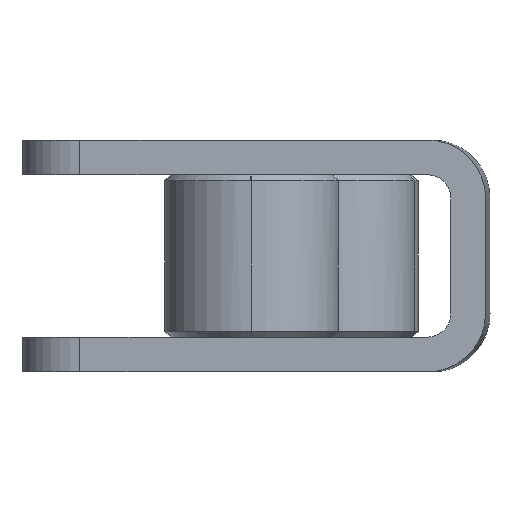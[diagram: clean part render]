
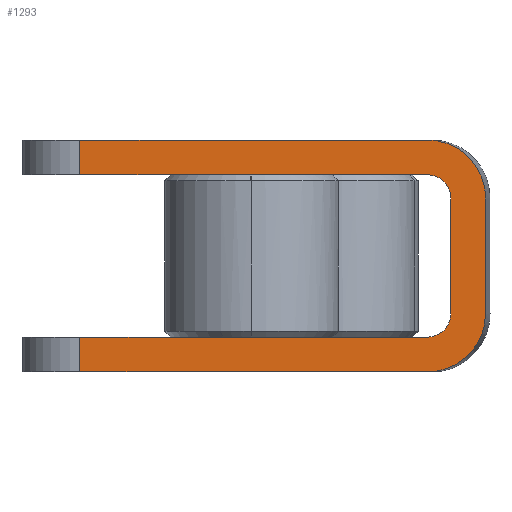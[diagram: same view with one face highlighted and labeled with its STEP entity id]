
A CAD part, left-side view. The second image highlights one B-rep face of the part: STEP entity #1293.
In plain terms, the highlighted planar face has unit normal (-1, 0.001, 0).
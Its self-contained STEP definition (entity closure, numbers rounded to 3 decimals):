
#1195=AXIS2_PLACEMENT_3D('Plane Axis2P3D',#1192,#1193,#1194) ;
#1208=AXIS2_PLACEMENT_3D('Circle Axis2P3D',#1206,#1207,$) ;
#1239=AXIS2_PLACEMENT_3D('Circle Axis2P3D',#1237,#1238,$) ;
#876=CARTESIAN_POINT('Vertex',(-534.201,516.282,340.663)) ;
#879=CARTESIAN_POINT('Line Origine',(-534.201,501.282,340.663)) ;
#883=CARTESIAN_POINT('Vertex',(-534.201,486.282,340.663)) ;
#1046=CARTESIAN_POINT('Vertex',(-534.201,486.282,337.663)) ;
#1049=CARTESIAN_POINT('Line Origine',(-534.201,501.282,337.663)) ;
#1053=CARTESIAN_POINT('Vertex',(-534.201,516.282,337.663)) ;
#1180=CARTESIAN_POINT('Line Origine',(-534.201,516.282,347.663)) ;
#1192=CARTESIAN_POINT('Axis2P3D Location',(-534.201,521.282,337.663)) ;
#1197=CARTESIAN_POINT('Line Origine',(-534.201,501.282,354.663)) ;
#1201=CARTESIAN_POINT('Vertex',(-534.201,516.282,354.663)) ;
#1203=CARTESIAN_POINT('Vertex',(-534.201,486.282,354.663)) ;
#1206=CARTESIAN_POINT('Axis2P3D Location',(-534.201,486.282,352.663)) ;
#1210=CARTESIAN_POINT('Vertex',(-534.201,484.282,352.663)) ;
#1213=CARTESIAN_POINT('Line Origine',(-534.201,484.282,347.663)) ;
#1217=CARTESIAN_POINT('Vertex',(-534.201,484.282,342.663)) ;
#1221=CARTESIAN_POINT('Control Point',(-534.201,484.282,342.663)) ;
#1222=CARTESIAN_POINT('Control Point',(-534.201,484.282,342.456)) ;
#1223=CARTESIAN_POINT('Control Point',(-534.201,484.309,342.248)) ;
#1224=CARTESIAN_POINT('Control Point',(-534.201,484.363,342.045)) ;
#1225=CARTESIAN_POINT('Control Point',(-534.201,484.522,341.657)) ;
#1226=CARTESIAN_POINT('Control Point',(-534.201,484.776,341.323)) ;
#1227=CARTESIAN_POINT('Control Point',(-534.201,484.923,341.173)) ;
#1228=CARTESIAN_POINT('Control Point',(-534.201,485.254,340.916)) ;
#1229=CARTESIAN_POINT('Control Point',(-534.201,485.64,340.752)) ;
#1230=CARTESIAN_POINT('Control Point',(-534.201,485.842,340.696)) ;
#1231=CARTESIAN_POINT('Control Point',(-534.201,486.055,340.665)) ;
#1232=CARTESIAN_POINT('Control Point',(-534.201,486.267,340.664)) ;
#1233=CARTESIAN_POINT('Control Point',(-534.201,486.272,340.663)) ;
#1234=CARTESIAN_POINT('Control Point',(-534.201,486.277,340.663)) ;
#1235=CARTESIAN_POINT('Control Point',(-534.201,486.282,340.663)) ;
#1237=CARTESIAN_POINT('Axis2P3D Location',(-534.201,486.282,342.663)) ;
#1241=CARTESIAN_POINT('Vertex',(-534.201,481.282,342.663)) ;
#1244=CARTESIAN_POINT('Line Origine',(-534.201,481.282,347.663)) ;
#1248=CARTESIAN_POINT('Vertex',(-534.201,481.282,352.663)) ;
#1252=CARTESIAN_POINT('Control Point',(-534.201,486.282,357.663)) ;
#1253=CARTESIAN_POINT('Control Point',(-534.201,485.734,357.663)) ;
#1254=CARTESIAN_POINT('Control Point',(-534.201,485.186,357.588)) ;
#1255=CARTESIAN_POINT('Control Point',(-534.201,484.652,357.438)) ;
#1256=CARTESIAN_POINT('Control Point',(-534.201,483.639,356.996)) ;
#1257=CARTESIAN_POINT('Control Point',(-534.201,482.782,356.298)) ;
#1258=CARTESIAN_POINT('Control Point',(-534.201,482.404,355.891)) ;
#1259=CARTESIAN_POINT('Control Point',(-534.201,481.811,355.046)) ;
#1260=CARTESIAN_POINT('Control Point',(-534.201,481.451,354.081)) ;
#1261=CARTESIAN_POINT('Control Point',(-534.201,481.338,353.614)) ;
#1262=CARTESIAN_POINT('Control Point',(-534.201,481.282,353.139)) ;
#1263=CARTESIAN_POINT('Control Point',(-534.201,481.282,352.663)) ;
#1264=CARTESIAN_POINT('Vertex',(-534.201,486.282,357.663)) ;
#1267=CARTESIAN_POINT('Line Origine',(-534.201,501.282,357.663)) ;
#1271=CARTESIAN_POINT('Vertex',(-534.201,516.282,357.663)) ;
#1274=CARTESIAN_POINT('Line Origine',(-534.201,516.282,356.163)) ;
#880=DIRECTION('Vector Direction',(0.,-1.,0.)) ;
#1050=DIRECTION('Vector Direction',(0.,-1.,0.)) ;
#1181=DIRECTION('Vector Direction',(0.,0.,1.)) ;
#1193=DIRECTION('Axis2P3D Direction',(-1.,0.,0.)) ;
#1194=DIRECTION('Axis2P3D XDirection',(0.,-1.,0.)) ;
#1198=DIRECTION('Vector Direction',(0.,-1.,0.)) ;
#1207=DIRECTION('Axis2P3D Direction',(-1.,0.,0.)) ;
#1214=DIRECTION('Vector Direction',(0.,0.,1.)) ;
#1238=DIRECTION('Axis2P3D Direction',(-1.,0.,0.)) ;
#1245=DIRECTION('Vector Direction',(0.,0.,1.)) ;
#1268=DIRECTION('Vector Direction',(0.,-1.,0.)) ;
#1275=DIRECTION('Vector Direction',(0.,0.,1.)) ;
#881=VECTOR('Line Direction',#880,1.) ;
#1051=VECTOR('Line Direction',#1050,1.) ;
#1182=VECTOR('Line Direction',#1181,1.) ;
#1199=VECTOR('Line Direction',#1198,1.) ;
#1215=VECTOR('Line Direction',#1214,1.) ;
#1246=VECTOR('Line Direction',#1245,1.) ;
#1269=VECTOR('Line Direction',#1268,1.) ;
#1276=VECTOR('Line Direction',#1275,1.) ;
#1280=ORIENTED_EDGE('',*,*,#1205,.T.) ;
#1281=ORIENTED_EDGE('',*,*,#1212,.T.) ;
#1282=ORIENTED_EDGE('',*,*,#1219,.F.) ;
#1283=ORIENTED_EDGE('',*,*,#1236,.T.) ;
#1284=ORIENTED_EDGE('',*,*,#885,.F.) ;
#1285=ORIENTED_EDGE('',*,*,#1184,.F.) ;
#1286=ORIENTED_EDGE('',*,*,#1055,.T.) ;
#1287=ORIENTED_EDGE('',*,*,#1243,.F.) ;
#1288=ORIENTED_EDGE('',*,*,#1250,.T.) ;
#1289=ORIENTED_EDGE('',*,*,#1266,.F.) ;
#1290=ORIENTED_EDGE('',*,*,#1273,.F.) ;
#1291=ORIENTED_EDGE('',*,*,#1278,.F.) ;
#1293=ADVANCED_FACE('\X2\51E04F554F53\X0\.2',(#1292),#1196,.T.) ;
#1220=B_SPLINE_CURVE_WITH_KNOTS('',5,(#1221,#1222,#1223,#1224,#1225,#1226,#1227,#1228,#1229,#1230,#1231,#1232,#1233,#1234,#1235),.UNSPECIFIED.,.F.,.U.,(6,3,3,3,6),(0.,1.47,2.939,4.409,4.443),.UNSPECIFIED.) ;
#1251=B_SPLINE_CURVE_WITH_KNOTS('',5,(#1252,#1253,#1254,#1255,#1256,#1257,#1258,#1259,#1260,#1261,#1262,#1263),.UNSPECIFIED.,.F.,.U.,(6,3,3,6),(0.,3.873,7.746,11.107),.UNSPECIFIED.) ;
#1209=CIRCLE('generated circle',#1208,2.) ;
#1240=CIRCLE('generated circle',#1239,5.) ;
#885=EDGE_CURVE('',#877,#884,#882,.T.) ;
#1055=EDGE_CURVE('',#1054,#1047,#1052,.T.) ;
#1184=EDGE_CURVE('',#1054,#877,#1183,.T.) ;
#1205=EDGE_CURVE('',#1202,#1204,#1200,.T.) ;
#1212=EDGE_CURVE('',#1204,#1211,#1209,.F.) ;
#1219=EDGE_CURVE('',#1218,#1211,#1216,.T.) ;
#1236=EDGE_CURVE('',#1218,#884,#1220,.T.) ;
#1243=EDGE_CURVE('',#1242,#1047,#1240,.F.) ;
#1250=EDGE_CURVE('',#1242,#1249,#1247,.T.) ;
#1266=EDGE_CURVE('',#1265,#1249,#1251,.T.) ;
#1273=EDGE_CURVE('',#1272,#1265,#1270,.T.) ;
#1278=EDGE_CURVE('',#1202,#1272,#1277,.T.) ;
#1279=EDGE_LOOP('',(#1280,#1281,#1282,#1283,#1284,#1285,#1286,#1287,#1288,#1289,#1290,#1291)) ;
#1292=FACE_OUTER_BOUND('',#1279,.T.) ;
#882=LINE('Line',#879,#881) ;
#1052=LINE('Line',#1049,#1051) ;
#1183=LINE('Line',#1180,#1182) ;
#1200=LINE('Line',#1197,#1199) ;
#1216=LINE('Line',#1213,#1215) ;
#1247=LINE('Line',#1244,#1246) ;
#1270=LINE('Line',#1267,#1269) ;
#1277=LINE('Line',#1274,#1276) ;
#1196=PLANE('Plane',#1195) ;
#877=VERTEX_POINT('',#876) ;
#884=VERTEX_POINT('',#883) ;
#1047=VERTEX_POINT('',#1046) ;
#1054=VERTEX_POINT('',#1053) ;
#1202=VERTEX_POINT('',#1201) ;
#1204=VERTEX_POINT('',#1203) ;
#1211=VERTEX_POINT('',#1210) ;
#1218=VERTEX_POINT('',#1217) ;
#1242=VERTEX_POINT('',#1241) ;
#1249=VERTEX_POINT('',#1248) ;
#1265=VERTEX_POINT('',#1264) ;
#1272=VERTEX_POINT('',#1271) ;
